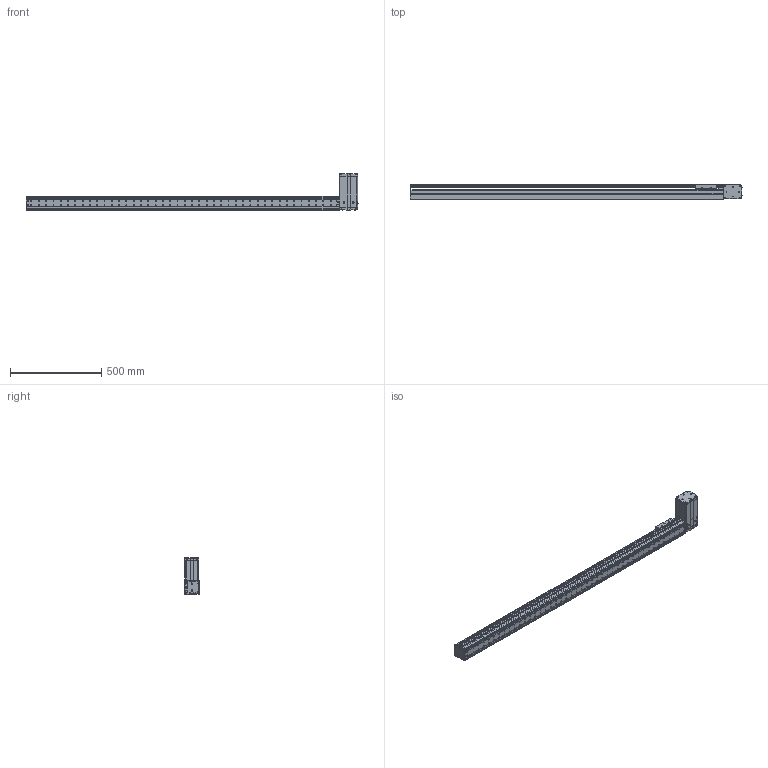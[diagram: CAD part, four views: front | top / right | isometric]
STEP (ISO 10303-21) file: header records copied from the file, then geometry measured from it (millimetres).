
FILE_DESCRIPTION((''),'2;1');
FILE_NAME('BE10_-BR-M_N-F0_IGS_PRT','2017-06-18T',(' '),(''),'PRO/ENGINEER BY PARAMETRIC TECHNOLOGY CORPORATION, 2015030','PRO/ENGINEER BY PARAMETRIC TECHNOLOGY CORPORATION, 2015030','');
FILE_SCHEMA(('CONFIG_CONTROL_DESIGN'));
Products named in the file (1): BE10_-BR-M_N-F0_IGS_PRT
Bounding box: 1820.8 x 85 x 200.22 mm (x, y, z)
Volume: 2520906.2 mm3; surface area: 1704223.6 mm2
Topology: 2 solids, 171 shells, 2311 faces, 6321 edges, 4191 vertices
Faces by surface type: plane 1077, cylinder 1071, cone 107, sphere 28, torus 25, bspline 3
Entity records: 75539 total; most frequent: CARTESIAN_POINT 15512, DIRECTION 12775, ORIENTED_EDGE 11914, EDGE_CURVE 6259, AXIS2_PLACEMENT_3D 4657, VERTEX_POINT 4191, VECTOR 3461, LINE 3461
